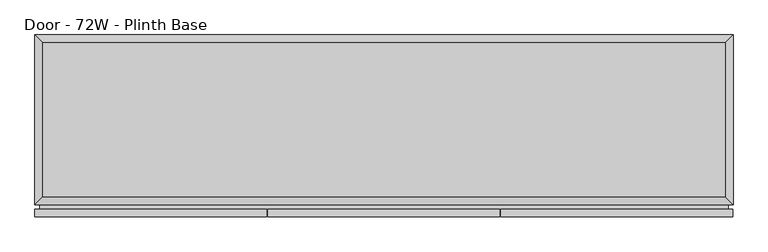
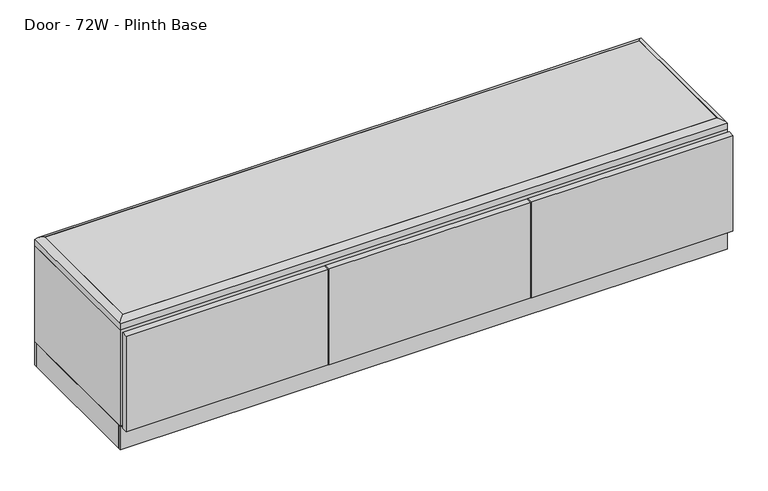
"""IFC4 building model written with IfcOpenShell, lengths in millimetres: furniture geometry, Steelcase Coalesse - Exponents - Seating - Bench : Door - 72W - Plinth Base."""

from ifc_helpers import new_model, si_unit, frame, origin, place, context, project, spatial, polyline, ellipse_curve, outline, extrude, faceted_brep, source, transform, mapped, element, save
from ifc_brep_helpers import plane_surface, cylinder_surface, advanced_brep


def door_72w_plinth_base_7b72be99(model_context):
    return source(origin(), model_context, "Body", "SolidModel", [
        extrude(outline(polyline([(1828.0126, 0.0), (1828.0126, -19.05), (1220.6224, -19.05), (1220.6224, 0.0), (1828.0126, 0.0)])), frame((0.0, 0.0, 82.55), z_axis=(0.0, 0.0, 1.0), x_axis=(1.0, 0.0, 0.0)), (0.0, 0.0, 1.0), 304.8),
        extrude(outline(polyline([(1217.8284, 0.0), (1217.8284, -19.05), (610.4382, -19.05), (610.4382, 0.0), (1217.8284, 0.0)])), frame((0.0, 0.0, 82.55), z_axis=(0.0, 0.0, 1.0), x_axis=(1.0, 0.0, 0.0)), (0.0, 0.0, 1.0), 304.8),
        extrude(outline(polyline([(607.3902, 0.0), (607.3902, -19.05), (0.0, -19.05), (0.0, 0.0), (607.3902, 0.0)])), frame((0.0, 0.0, 82.55), z_axis=(0.0, 0.0, 1.0), x_axis=(1.0, 0.0, 0.0)), (0.0, 0.0, 1.0), 304.8),
        extrude(outline(polyline([(1209.548, 12.7), (623.824, 12.7), (623.824, 438.15), (1209.548, 438.15), (1209.548, 12.7)])), frame((0.0, 0.0, 215.9), z_axis=(0.0, 0.0, 1.0), x_axis=(1.0, 0.0, 0.0)), (0.0, 0.0, 1.0), 19.05),
        advanced_brep(
        [(0.0, 12.7, 406.6283237), (0.0, 12.7, 387.35), (1828.8, 12.7, 387.35), (1828.8, 12.7, 406.6283237), (1828.8, 457.2, 406.6283237), (1828.8, 457.2, 387.35), (0.0, 457.2, 387.35), (0.0, 457.2, 406.6283237), (1809.75, 31.75, 406.6283237), (1809.75, 438.15, 406.6283237), (19.05, 438.15, 406.6283237), (19.05, 31.75, 406.6283237), (1809.75, 438.15, 419.0696271), (1809.75, 31.75, 419.0696271), (19.05, 31.75, 419.0696271), (19.05, 438.15, 419.0696271)],
        [
            (0, 1),
            (1, 2),
            (2, 3),
            (3, 0),
            (4, 5),
            (5, 6),
            (6, 7),
            (7, 4),
            (8, 9),
            (9, 10),
            (10, 11),
            (11, 8),
            (0, 7),
            (6, 1),
            (5, 2),
            (4, 3),
            (12, 9),
            (8, 13),
            (13, 12),
            (13, 3, ellipse_curve(frame((1808.1973666, 33.3026334, 395.8870134), z_axis=(0.7071067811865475, 0.7071067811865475, 0.0), x_axis=(-0.7071067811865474, 0.7071067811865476, 0.0)), 32.8586138, 23.2345486)),
            (4, 12, ellipse_curve(frame((1808.1973666, 436.5973666, 395.8870134), z_axis=(0.7071067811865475, -0.7071067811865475, 0.0), x_axis=(0.7071067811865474, 0.7071067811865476, 0.0)), 32.8586138, 23.2345486)),
            (11, 14),
            (14, 13),
            (14, 0, ellipse_curve(frame((20.6026334, 33.3026334, 395.8870134), z_axis=(0.7071067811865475, -0.7071067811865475, 0.0), x_axis=(0.7071067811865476, 0.7071067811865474, 0.0)), 32.8586138, 23.2345486)),
            (10, 15),
            (15, 14),
            (15, 7, ellipse_curve(frame((20.6026334, 436.5973666, 395.8870134), z_axis=(-0.7071067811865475, -0.7071067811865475, 0.0), x_axis=(0.7071067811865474, -0.7071067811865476, 0.0)), 32.8586138, 23.2345486)),
            (12, 15),
        ],
        [
            plane_surface(frame((0.0, 12.7, 406.6283237), z_axis=(0.0, -1.0, 0.0), x_axis=(-1.0, 0.0, 0.0))),
            plane_surface(frame((0.0, 457.2, 406.6283237), z_axis=(0.0, 1.0, 0.0), x_axis=(1.0, 0.0, 0.0))),
            plane_surface(frame((1828.8, 12.7, 406.6283237), z_axis=(0.0, 0.0, 1.0), x_axis=(0.0, 1.0, 0.0))),
            plane_surface(frame((0.0, 12.7, 406.6283237), z_axis=(-1.0, 0.0, 1.9588398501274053e-12), x_axis=(0.0, 1.0, 0.0))),
            plane_surface(frame((0.0, 12.7, 387.35), z_axis=(0.0, 0.0, -1.0), x_axis=(0.0, 1.0, 0.0))),
            plane_surface(frame((1828.8, 12.7, 387.35), z_axis=(1.0, 0.0, 0.0), x_axis=(0.0, 1.0, 0.0))),
            plane_surface(frame((1809.75, 438.15, 406.6284102), z_axis=(-1.0, 0.0, 0.0), x_axis=(0.0, -1.0, 0.0))),
            cylinder_surface(frame((1808.1973666, 457.2, 395.8870134), z_axis=(0.0, 1.0, 0.0), x_axis=(1.0, 0.0, 0.0)), 23.2345486),
            plane_surface(frame((1809.75, 31.75, 406.6284102), z_axis=(0.0, 1.0, 0.0), x_axis=(-1.0, 0.0, 0.0))),
            cylinder_surface(frame((1828.8, 33.3026334, 395.8870134), z_axis=(1.0, 0.0, 0.0), x_axis=(0.0, -1.0, 0.0)), 23.2345486),
            plane_surface(frame((19.05, 31.75, 406.6284102), z_axis=(1.0, 0.0, 0.0), x_axis=(0.0, 1.0, 0.0))),
            cylinder_surface(frame((20.6026334, 12.7, 395.8870134), z_axis=(0.0, -1.0, 0.0), x_axis=(-1.0, 0.0, 0.0)), 23.2345486),
            plane_surface(frame((19.05, 438.15, 406.6284102), z_axis=(0.0, -1.0, 0.0), x_axis=(1.0, 0.0, 0.0))),
            cylinder_surface(frame((0.0, 436.5973666, 395.8870134), z_axis=(-1.0, 0.0, 0.0), x_axis=(0.0, 1.0, 0.0)), 23.2345486),
        ],
        [
            (0, [[1, 2, 3, 4]]),
            (1, [[5, 6, 7, 8]]),
            (2, [[9, 10, 11, 12]]),
            (3, [[-1, 13, -7, 14]]),
            (4, [[-2, -14, -6, 15]]),
            (5, [[-3, -15, -5, 16]]),
            (6, [[17, -9, 18, 19]]),
            (7, [[-19, 20, -16, 21]]),
            (8, [[-18, -12, 22, 23]]),
            (9, [[-20, -23, 24, -4]]),
            (10, [[-22, -11, 25, 26]]),
            (11, [[-24, -26, 27, -13]]),
            (12, [[-17, 28, -25, -10]]),
            (13, [[-21, -8, -27, -28]]),
        ],
    ),
        extrude(outline(polyline([(1228.598, 438.15), (1228.598, 0.0), (1209.548, 0.0), (1209.548, 438.15), (1228.598, 438.15)])), frame((0.0, 0.0, 101.6), z_axis=(0.0, 0.0, 1.0), x_axis=(1.0, 0.0, 0.0)), (0.0, 0.0, 1.0), 266.7),
        faceted_brep([(1828.8, 12.7, 387.35), (0.0, 12.7, 387.35), (0.0, 12.7, 82.55), (1828.8, 12.7, 82.55), (19.05, 12.7, 368.0968), (604.774, 12.7, 368.0968), (604.774, 12.7, 101.8032), (19.05, 12.7, 101.8032), (623.824, 12.7, 368.0968), (1809.75, 12.7, 368.0968), (1809.75, 12.7, 101.8032), (623.824, 12.7, 101.8032), (1828.8, 457.2, 387.35), (1828.8, 457.2, 82.55), (0.0, 457.2, 82.55), (0.0, 457.2, 387.35), (604.774, 438.15, 368.0968), (19.05, 438.15, 368.0968), (19.05, 438.15, 101.8032), (604.774, 438.15, 101.8032), (1809.75, 438.15, 368.0968), (623.824, 438.15, 368.0968), (623.824, 438.15, 101.8032), (1809.75, 438.15, 101.8032)], [[[0, 1, 2, 3], [4, 5, 6, 7], [8, 9, 10, 11]], [[12, 13, 14, 15]], [[1, 0, 12, 15]], [[2, 1, 15, 14]], [[3, 2, 14, 13]], [[0, 3, 13, 12]], [[16, 17, 18, 19]], [[20, 21, 22, 23]], [[17, 16, 5, 4]], [[18, 17, 4, 7]], [[19, 18, 7, 6]], [[16, 19, 6, 5]], [[21, 20, 9, 8]], [[22, 21, 8, 11]], [[23, 22, 11, 10]], [[20, 23, 10, 9]]]),
        extrude(outline(polyline([(1828.8, 457.2), (1828.8, 450.85), (0.0, 450.85), (0.0, 457.2), (1828.8, 457.2)])), frame((0.0, 0.0, 6.35), z_axis=(0.0, 0.0, 1.0), x_axis=(1.0, 0.0, 0.0)), (0.0, 0.0, 1.0), 73.4568),
        extrude(outline(polyline([(6.31225, 19.05), (0.0, 19.05), (0.0, 450.85), (6.31225, 450.85), (6.31225, 19.05)])), frame((0.0, 0.0, 6.35), z_axis=(0.0, 0.0, 1.0), x_axis=(1.0, 0.0, 0.0)), (0.0, 0.0, 1.0), 73.4568),
        extrude(outline(polyline([(1828.8, 19.05), (1828.8, 12.7), (0.0, 12.7), (0.0, 19.05), (1828.8, 19.05)])), frame((0.0, 0.0, 6.35), z_axis=(0.0, 0.0, 1.0), x_axis=(1.0, 0.0, 0.0)), (0.0, 0.0, 1.0), 73.4568),
        extrude(outline(polyline([(1828.8, 19.05), (1822.41225, 19.05), (1822.41225, 450.85), (1828.8, 450.85), (1828.8, 19.05)])), frame((0.0, 0.0, 6.35), z_axis=(0.0, 0.0, 1.0), x_axis=(1.0, 0.0, 0.0)), (0.0, 0.0, 1.0), 73.4568),
        extrude(outline(polyline([(1823.93625, 452.374), (1823.93625, 17.526), (4.78825, 17.526), (4.78825, 452.374), (1823.93625, 452.374)]), holes=[polyline([(6.31225, 19.05), (1822.41225, 19.05), (1822.41225, 450.85), (6.31225, 450.85), (6.31225, 19.05)])]), frame((0.0, 0.0, 79.8068), z_axis=(0.0, 0.0, 1.0), x_axis=(1.0, 0.0, 0.0)), (0.0, 0.0, 1.0), 2.7432),
        extrude(outline(polyline([(1809.75, 31.75), (19.05, 31.75), (19.05, 438.15), (1809.75, 438.15), (1809.75, 31.75)])), frame((0.0, 0.0, 406.6283237), z_axis=(0.0, 0.0, 1.0), x_axis=(1.0, 0.0, 0.0)), (0.0, 0.0, 1.0), 12.4413034),
        extrude(outline(polyline([(374.4468, 1815.8206), (374.4468, 12.7), (95.4532, 12.7), (95.4532, 1815.8206), (374.4468, 1815.8206)]), holes=[polyline([(368.0968, 623.824), (368.0968, 1809.75), (101.8032, 1809.75), (101.8032, 623.824), (368.0968, 623.824)]), polyline([(368.0968, 604.774), (101.8032, 604.774), (101.8032, 19.05), (368.0968, 19.05), (368.0968, 604.774)])]), frame((0.0, 0.0, 0.0), z_axis=(0.0, 1.0, 0.0), x_axis=(0.0, 0.0, 1.0)), (0.0, 0.0, 1.0), 12.7),
    ])


if __name__ == "__main__":
    model = new_model("IFC4")
    model_context = context("Model", 3, world=origin())
    ifc_project = project(units=[si_unit("LENGTHUNIT", "METRE", prefix="MILLI")], contexts=[model_context])
    site = spatial("IfcSite", under=ifc_project)
    building = spatial("IfcBuilding", under=site)
    placement = place(None, origin())
    door_72w_plinth_base_shape = door_72w_plinth_base_7b72be99(model_context)
    element("IfcFurniture", 1, ObjectType="Steelcase Coalesse - Exponents - Seating - Bench : Door - 72W - Plinth Base", at=placement, inside=building, context=model_context, shape_type="MappedRepresentation", body=[
        mapped(door_72w_plinth_base_shape, transform((0.0, 0.0, 0.0), x_axis=(1.0, 0.0, 0.0), y_axis=(0.0, 1.0, 0.0), z_axis=(0.0, 0.0, 1.0))),
    ])
    save(model, "model.ifc")
